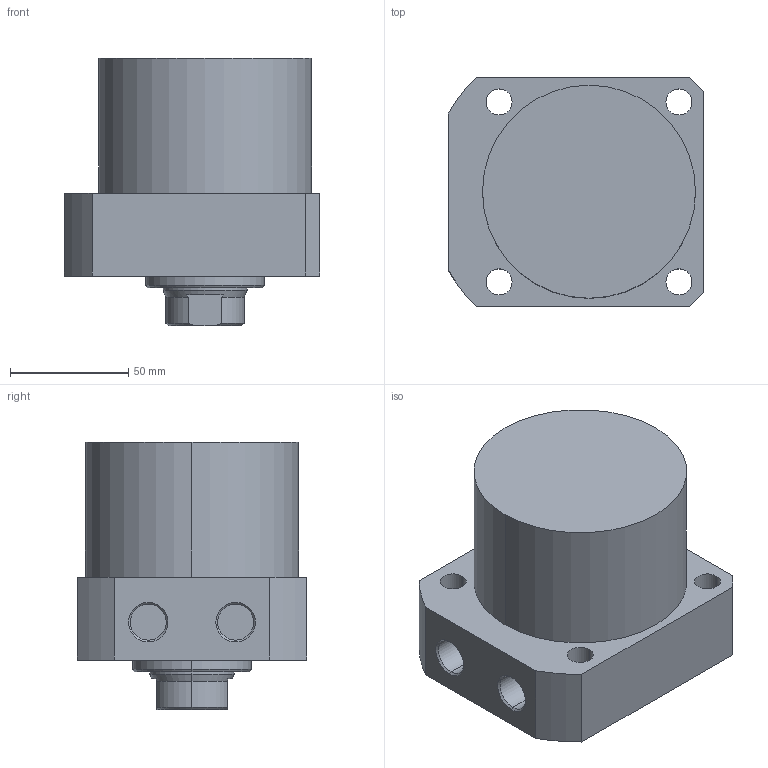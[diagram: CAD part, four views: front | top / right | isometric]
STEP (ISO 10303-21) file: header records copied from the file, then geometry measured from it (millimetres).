
FILE_DESCRIPTION (( 'STEP AP203' ), '1' );
FILE_NAME ('CLLR-090CA-035.STEP', '2019-12-19T02:15:31', ( '' ), ( '' ), 'SwSTEP 2.0', 'SolidWorks 2015', '' );
FILE_SCHEMA (( 'CONFIG_CONTROL_DESIGN' ));
Length unit declared in the file: millimetre
Products named in the file (1): CLLR-090CA-035
Bounding box: 108 x 97 x 113 mm (x, y, z)
Volume: 712881.5 mm3; surface area: 61178.9 mm2
Topology: 1 solids, 1 shells, 63 faces, 149 edges, 94 vertices
Faces by surface type: cylinder 29, plane 19, cone 15
Entity records: 1927 total; most frequent: DIRECTION 340, CARTESIAN_POINT 337, ORIENTED_EDGE 294, EDGE_CURVE 147, AXIS2_PLACEMENT_3D 137, VERTEX_POINT 94, EDGE_LOOP 79, CIRCLE 73
